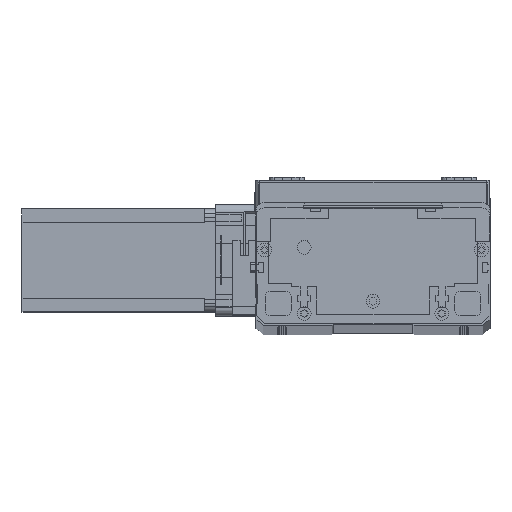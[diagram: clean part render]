
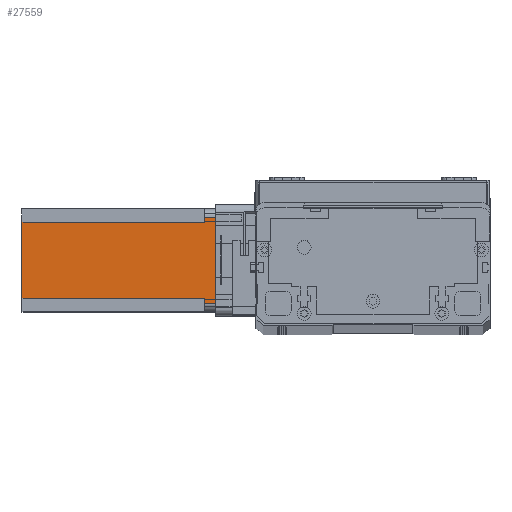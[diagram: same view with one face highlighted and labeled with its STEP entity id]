
A CAD part, top view. The second image highlights one B-rep face of the part: STEP entity #27559.
In plain terms, the highlighted planar face has unit normal (0, 0, 1) as drawn and (0, -1, 0) by its records, which use the part's own axes.
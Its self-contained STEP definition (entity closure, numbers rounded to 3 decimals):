
#150 = DIRECTION ( 'NONE',  ( 0., 0., -1. ) ) ;
#230 = VERTEX_POINT ( 'NONE', #5724 ) ;
#480 = FACE_OUTER_BOUND ( 'NONE', #15995, .T. ) ;
#803 = CARTESIAN_POINT ( 'NONE',  ( 5., 0., -6.5 ) ) ;
#1185 = DIRECTION ( 'NONE',  ( 1., 0., 0. ) ) ;
#1308 = EDGE_CURVE ( 'NONE', #22807, #9427, #25778, .T. ) ;
#1445 = ORIENTED_EDGE ( 'NONE', *, *, #19244, .T. ) ;
#1609 = VERTEX_POINT ( 'NONE', #20705 ) ;
#1644 = CARTESIAN_POINT ( 'NONE',  ( 52., 0., -112.5 ) ) ;
#2135 = ORIENTED_EDGE ( 'NONE', *, *, #25875, .T. ) ;
#3425 = EDGE_CURVE ( 'NONE', #4448, #5732, #14034, .T. ) ;
#3635 = CARTESIAN_POINT ( 'NONE',  ( 5., 0., 0. ) ) ;
#4202 = VECTOR ( 'NONE', #150, 1000. ) ;
#4448 = VERTEX_POINT ( 'NONE', #3635 ) ;
#4972 = CARTESIAN_POINT ( 'NONE',  ( 8., 0., -6.5 ) ) ;
#5724 = CARTESIAN_POINT ( 'NONE',  ( 55., 0., -6.5 ) ) ;
#5732 = VERTEX_POINT ( 'NONE', #20221 ) ;
#5791 = EDGE_CURVE ( 'NONE', #230, #5732, #18007, .T. ) ;
#6213 = VECTOR ( 'NONE', #26847, 1000. ) ;
#6720 = ORIENTED_EDGE ( 'NONE', *, *, #24981, .F. ) ;
#6891 = LINE ( 'NONE', #22678, #6213 ) ;
#7764 = ORIENTED_EDGE ( 'NONE', *, *, #1308, .F. ) ;
#8196 = VECTOR ( 'NONE', #25933, 1000. ) ;
#8630 = PLANE ( 'NONE',  #10960 ) ;
#8695 = ORIENTED_EDGE ( 'NONE', *, *, #19568, .T. ) ;
#8705 = VECTOR ( 'NONE', #13077, 1000. ) ;
#8868 = CARTESIAN_POINT ( 'NONE',  ( 52., 0., -112.5 ) ) ;
#8872 = LINE ( 'NONE', #23835, #8196 ) ;
#9427 = VERTEX_POINT ( 'NONE', #803 ) ;
#10629 = VECTOR ( 'NONE', #1185, 1000. ) ;
#10722 = LINE ( 'NONE', #8868, #4202 ) ;
#10960 = AXIS2_PLACEMENT_3D ( 'NONE', #23648, #25755, #13026 ) ;
#11425 = VERTEX_POINT ( 'NONE', #1644 ) ;
#13026 = DIRECTION ( 'NONE',  ( 0., 0., -1. ) ) ;
#13077 = DIRECTION ( 'NONE',  ( -1., 0., 0. ) ) ;
#14034 = LINE ( 'NONE', #20462, #24677 ) ;
#14284 = CARTESIAN_POINT ( 'NONE',  ( 52., 0., -6.5 ) ) ;
#15879 = DIRECTION ( 'NONE',  ( 0., 0., 1. ) ) ;
#15995 = EDGE_LOOP ( 'NONE', ( #1445, #17371, #26050, #8695, #7764, #6720, #2135, #21178 ) ) ;
#17371 = ORIENTED_EDGE ( 'NONE', *, *, #5791, .T. ) ;
#17902 = VERTEX_POINT ( 'NONE', #21843 ) ;
#18007 = LINE ( 'NONE', #19239, #22972 ) ;
#19239 = CARTESIAN_POINT ( 'NONE',  ( 55., 0., -112.5 ) ) ;
#19244 = EDGE_CURVE ( 'NONE', #1609, #230, #20740, .T. ) ;
#19416 = DIRECTION ( 'NONE',  ( 0., 0., 1. ) ) ;
#19568 = EDGE_CURVE ( 'NONE', #4448, #9427, #8872, .T. ) ;
#20106 = CARTESIAN_POINT ( 'NONE',  ( 8., 0., -112.5 ) ) ;
#20221 = CARTESIAN_POINT ( 'NONE',  ( 55., 0., 0. ) ) ;
#20462 = CARTESIAN_POINT ( 'NONE',  ( 0., 0., 0. ) ) ;
#20705 = CARTESIAN_POINT ( 'NONE',  ( 52., 0., -6.5 ) ) ;
#20740 = LINE ( 'NONE', #14284, #10629 ) ;
#21178 = ORIENTED_EDGE ( 'NONE', *, *, #24838, .F. ) ;
#21580 = DIRECTION ( 'NONE',  ( 1., 0., 0. ) ) ;
#21843 = CARTESIAN_POINT ( 'NONE',  ( 8., 0., -112.5 ) ) ;
#22678 = CARTESIAN_POINT ( 'NONE',  ( 0., 0., -112.5 ) ) ;
#22807 = VERTEX_POINT ( 'NONE', #4972 ) ;
#22972 = VECTOR ( 'NONE', #19416, 1000. ) ;
#23108 = VECTOR ( 'NONE', #15879, 1000. ) ;
#23648 = CARTESIAN_POINT ( 'NONE',  ( 0., 0., -112.5 ) ) ;
#23698 = CARTESIAN_POINT ( 'NONE',  ( 8., 0., -6.5 ) ) ;
#23835 = CARTESIAN_POINT ( 'NONE',  ( 5., 0., -112.5 ) ) ;
#24422 = LINE ( 'NONE', #20106, #23108 ) ;
#24677 = VECTOR ( 'NONE', #21580, 1000. ) ;
#24838 = EDGE_CURVE ( 'NONE', #1609, #11425, #10722, .T. ) ;
#24981 = EDGE_CURVE ( 'NONE', #17902, #22807, #24422, .T. ) ;
#25755 = DIRECTION ( 'NONE',  ( 0., -1., 0. ) ) ;
#25778 = LINE ( 'NONE', #23698, #8705 ) ;
#25875 = EDGE_CURVE ( 'NONE', #17902, #11425, #6891, .T. ) ;
#25933 = DIRECTION ( 'NONE',  ( 0., 0., -1. ) ) ;
#26050 = ORIENTED_EDGE ( 'NONE', *, *, #3425, .F. ) ;
#26847 = DIRECTION ( 'NONE',  ( 1., 0., 0. ) ) ;
#27559 = ADVANCED_FACE ( 'NONE', ( #480 ), #8630, .T. ) ;
